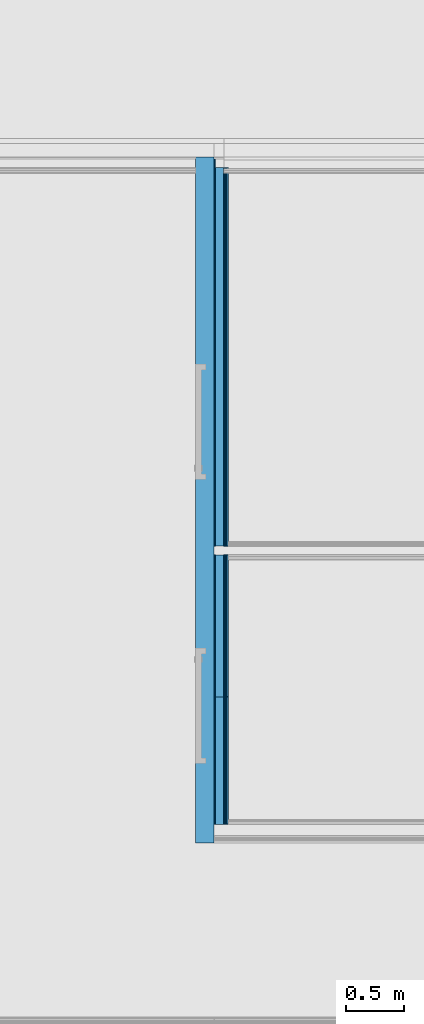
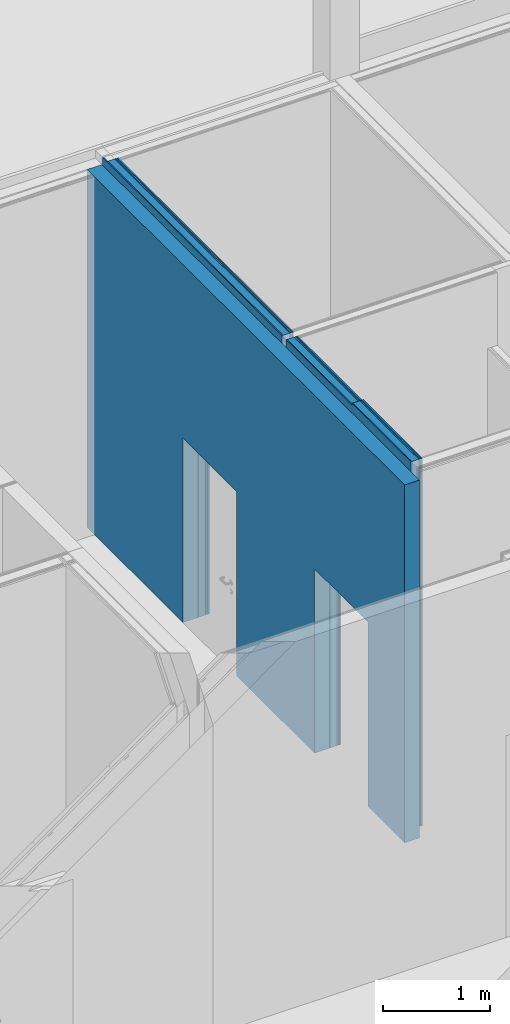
# One storey, part 227 of 260: 6 building element parts, 2 openings, 1 element without a shape of its own.
"""IFC2X3 building model written with IfcOpenShell, lengths in millimetres."""

from ifc_helpers import new_model, entity, si_unit, converted_unit, derived_unit, money_unit, direction, frame, origin_with_axes, place, context, subcontext, project, spatial, faceted_brep, material, type_object, element, aggregate, save


model = new_model("IFC2X3")

# Units and contexts
model_context = context("Model", 3, precision=0.01, world=origin_with_axes(), true_north=direction((0.0, 1.0)))
body_context = subcontext(model_context, "Body", "Model", "MODEL_VIEW")
ifc_project = project(units=[si_unit("LENGTHUNIT", "METRE", prefix="MILLI"), si_unit("AREAUNIT", "SQUARE_METRE"), si_unit("VOLUMEUNIT", "CUBIC_METRE"), converted_unit("PLANEANGLEUNIT", "DEGREE", entity("IfcPlaneAngleMeasure", 0.0174532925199), si_unit("PLANEANGLEUNIT", "RADIAN"), dimensions=[0, 0, 0, 0, 0, 0, 0]), money_unit("EUR"), converted_unit("TIMEUNIT", "Year", entity("IfcTimeMeasure", 31556926.0), si_unit("TIMEUNIT", "SECOND"), dimensions=[0, 0, 1, 0, 0, 0, 0]), si_unit("MASSUNIT", "GRAM", prefix="KILO"), si_unit("THERMODYNAMICTEMPERATUREUNIT", "DEGREE_CELSIUS"), si_unit("LUMINOUSINTENSITYUNIT", "LUMEN"), si_unit("ENERGYUNIT", "JOULE", prefix="MEGA"), derived_unit("THERMALCONDUCTANCEUNIT", [(si_unit("POWERUNIT", "WATT"), 1), (si_unit("LENGTHUNIT", "METRE"), -1), (si_unit("THERMODYNAMICTEMPERATUREUNIT", "KELVIN"), -1)]), derived_unit("SPECIFICHEATCAPACITYUNIT", [(si_unit("ENERGYUNIT", "JOULE"), 1), (si_unit("MASSUNIT", "GRAM", prefix="KILO"), -1), (si_unit("THERMODYNAMICTEMPERATUREUNIT", "KELVIN"), -1)]), derived_unit("MASSDENSITYUNIT", [(si_unit("MASSUNIT", "GRAM", prefix="KILO"), 1), (si_unit("VOLUMEUNIT", "CUBIC_METRE"), -1)])], contexts=[model_context])

# Site, building, storey
site_placement = place(None, origin_with_axes())
site = spatial("IfcSite", under=ifc_project, at=site_placement, Name="Kolde pst 67a", CompositionType="ELEMENT")
building_placement = place(site_placement, origin_with_axes())
building = spatial("IfcBuilding", under=site, at=building_placement, Name="Riigigümnaasium", CompositionType="ELEMENT")
storey_placement = place(building_placement, origin_with_axes())
storey = spatial("IfcBuildingStorey", under=building, at=storey_placement, Name="1. korrus", CompositionType="ELEMENT", Elevation=0.0)

# Wall, openings, building element parts
wall_type = type_object("IfcWallType", Name="SS-CLT-16/4_1xplaaditud 285", PredefinedType="NOTDEFINED")
wall_placement = place(storey_placement, frame((24040.0027342, 67089.9971514, 0.0), z_axis=(0.0, 0.0, 1.0), x_axis=(0.0, -1.0, 0.0)))
wall = element("IfcWall", 1, at=wall_placement, inside=storey, type_object=wall_type, Name="Sisesein")
opening_1_placement = place(wall_placement, frame((4745.99765613, 0.0, 0.0), z_axis=(0.0, 0.0, 1.0), x_axis=(1.0, 0.0, 0.0)))
element("IfcOpeningElement", 2, at=opening_1_placement, cuts=wall, Name="Siseuks", context=body_context, shape_type="Brep", body=[
    faceted_brep([(500.0, -570.0, 2100.0), (500.0, -570.0, 0.0), (500.0, 285.0, 0.0), (500.0, 285.0, 2100.0), (-500.0, -570.0, 2100.0), (-500.0, -570.0, 0.0), (-500.0, 285.0, 0.0), (-500.0, 285.0, 2100.0)], [[[0, 1, 2, 3]], [[0, 4, 5, 1]], [[1, 5, 6, 2]], [[3, 2, 6, 7]], [[4, 0, 3, 7]], [[5, 4, 7, 6]]]),
])
opening_2_placement = place(wall_placement, frame((2289.98388579, 0.0, 0.0), z_axis=(0.0, 0.0, 1.0), x_axis=(1.0, 0.0, 0.0)))
element("IfcOpeningElement", 3, at=opening_2_placement, cuts=wall, Name="Siseuks", context=body_context, shape_type="Brep", body=[
    faceted_brep([(-500.0, 285.0, 2100.0), (-500.0, 285.0, 0.0), (-500.0, -570.0, 0.0), (-500.0, -570.0, 2100.0), (500.0, 285.0, 2100.0), (500.0, 285.0, 0.0), (500.0, -570.0, 0.0), (500.0, -570.0, 2100.0)], [[[0, 1, 2, 3]], [[0, 4, 5, 1]], [[1, 5, 6, 2]], [[3, 2, 6, 7]], [[4, 0, 3, 7]], [[5, 4, 7, 6]]]),
])
ifc_material_1 = material(Name="_VIIMISTLUSKIHT - keraamiline plaat sein")
building_element_part_1_placement = place(wall_placement, origin_with_axes())
building_element_part_1 = element("IfcBuildingElementPart", 4, at=building_element_part_1_placement, material=ifc_material_1, Name="_VIIMISTLUSKIHT - keraamiline plaat sein", context=body_context, shape_type="Brep", body=[
    faceted_brep([(5245.99765613, 285.0, 0.0), (5245.99765613, 285.0, 2100.0), (4245.99765613, 285.0, 2100.0), (4245.99765613, 285.0, 0.0), (3440.48388579, 285.0, 0.0), (3440.48388579, 285.0, 4170.0), (4668.81419796, 285.0, 4170.0), (4668.81419796, 285.0, 4190.0), (5770.98388579, 285.0, 4190.0), (5770.98388579, 285.0, 0.0), (5245.99765613, 270.0, 0.0), (5245.99765613, 270.0, 2100.0), (4245.99765613, 270.0, 2100.0), (4245.99765613, 270.0, 0.0), (3440.48388579, 270.0, 0.0), (3440.48388579, 270.0, 4170.0), (4668.81419796, 270.0, 4170.0), (4668.81419796, 270.0, 4190.0), (5770.98388579, 270.0, 4190.0), (5770.98388579, 270.0, 0.0)], [[[0, 1, 2, 3, 4, 5, 6, 7, 8, 9]], [[1, 0, 10, 11]], [[2, 1, 11, 12]], [[3, 2, 12, 13]], [[3, 13, 14, 4]], [[5, 4, 14, 15]], [[5, 15, 16, 6]], [[7, 6, 16, 17]], [[17, 18, 8, 7]], [[18, 19, 9, 8]], [[10, 0, 9, 19]], [[11, 10, 19, 18, 17, 16, 15, 14, 13, 12]]]),
    faceted_brep([(2789.98388579, 285.0, 0.0), (2789.98388579, 285.0, 2100.0), (1789.98388579, 285.0, 2100.0), (1789.98388579, 285.0, 0.0), (90.0, 285.0, 0.0), (90.0, 285.0, 4170.0), (3365.48388579, 285.0, 4170.0), (3365.48388579, 285.0, 0.0), (2789.98388579, 270.0, 0.0), (2789.98388579, 270.0, 2100.0), (1789.98388579, 270.0, 2100.0), (1789.98388579, 270.0, 0.0), (90.0, 270.0, 0.0), (90.0, 270.0, 4170.0), (3365.48388579, 270.0, 4170.0), (3365.48388579, 270.0, 0.0)], [[[0, 1, 2, 3, 4, 5, 6, 7]], [[1, 0, 8, 9]], [[2, 1, 9, 10]], [[3, 2, 10, 11]], [[3, 11, 12, 4]], [[5, 4, 12, 13]], [[5, 13, 14, 6]], [[14, 15, 7, 6]], [[8, 0, 7, 15]], [[9, 8, 15, 14, 13, 12, 11, 10]]]),
])
ifc_material_2 = material(Name="_PLAATMATERJAL - kipsplaat veekindel")
building_element_part_2_placement = place(wall_placement, origin_with_axes())
building_element_part_2 = element("IfcBuildingElementPart", 5, at=building_element_part_2_placement, material=ifc_material_2, Name="_PLAATMATERJAL - kipsplaat veekindel", context=body_context, shape_type="Brep", body=[
    faceted_brep([(5245.99765613, 270.0, 0.0), (5245.99765613, 270.0, 2100.0), (4245.99765613, 270.0, 2100.0), (4245.99765613, 270.0, 0.0), (3440.48388579, 270.0, 0.0), (3440.48388579, 270.0, 4170.0), (4668.81419796, 270.0, 4170.0), (4668.81419796, 270.0, 4190.0), (5770.98388579, 270.0, 4190.0), (5770.98388579, 270.0, 0.0), (5245.99765613, 257.5, 0.0), (5245.99765613, 257.5, 2100.0), (4245.99765613, 257.5, 2100.0), (4245.99765613, 257.5, 0.0), (3440.48388579, 257.5, 0.0), (3440.48388579, 257.5, 4170.0), (4668.81419796, 257.5, 4170.0), (4668.81419796, 257.5, 4190.0), (5770.98388579, 257.5, 4190.0), (5770.98388579, 257.5, 0.0)], [[[0, 1, 2, 3, 4, 5, 6, 7, 8, 9]], [[1, 0, 10, 11]], [[2, 1, 11, 12]], [[3, 2, 12, 13]], [[3, 13, 14, 4]], [[5, 4, 14, 15]], [[5, 15, 16, 6]], [[7, 6, 16, 17]], [[17, 18, 8, 7]], [[18, 19, 9, 8]], [[10, 0, 9, 19]], [[11, 10, 19, 18, 17, 16, 15, 14, 13, 12]]]),
    faceted_brep([(2789.98388579, 270.0, 0.0), (2789.98388579, 270.0, 2100.0), (1789.98388579, 270.0, 2100.0), (1789.98388579, 270.0, 0.0), (90.0, 270.0, 0.0), (90.0, 270.0, 4170.0), (3365.48388579, 270.0, 4170.0), (3365.48388579, 270.0, 0.0), (2789.98388579, 257.5, 0.0), (2789.98388579, 257.5, 2100.0), (1789.98388579, 257.5, 2100.0), (1789.98388579, 257.5, 0.0), (90.0, 257.5, 0.0), (90.0, 257.5, 4170.0), (3365.48388579, 257.5, 4170.0), (3365.48388579, 257.5, 0.0)], [[[0, 1, 2, 3, 4, 5, 6, 7]], [[1, 0, 8, 9]], [[2, 1, 9, 10]], [[3, 2, 10, 11]], [[3, 11, 12, 4]], [[5, 4, 12, 13]], [[5, 13, 14, 6]], [[14, 15, 7, 6]], [[8, 0, 7, 15]], [[9, 8, 15, 14, 13, 12, 11, 10]]]),
])
building_element_part_3_placement = place(wall_placement, origin_with_axes())
building_element_part_3 = element("IfcBuildingElementPart", 6, at=building_element_part_3_placement, material=ifc_material_2, Name="_PLAATMATERJAL - kipsplaat veekindel", context=body_context, shape_type="Brep", body=[
    faceted_brep([(5245.99765613, 257.5, 0.0), (5245.99765613, 257.5, 2100.0), (4245.99765613, 257.5, 2100.0), (4245.99765613, 257.5, 0.0), (3440.48388579, 257.5, 0.0), (3440.48388579, 257.5, 4170.0), (4668.81419796, 257.5, 4170.0), (4668.81419796, 257.5, 4190.0), (5770.98388579, 257.5, 4190.0), (5770.98388579, 257.5, 0.0), (5245.99765613, 245.0, 0.0), (5245.99765613, 245.0, 2100.0), (4245.99765613, 245.0, 2100.0), (4245.99765613, 245.0, 0.0), (3440.48388579, 245.0, 0.0), (3440.48388579, 245.0, 4170.0), (4668.81419796, 245.0, 4170.0), (4668.81419796, 245.0, 4190.0), (5770.98388579, 245.0, 4190.0), (5770.98388579, 245.0, 0.0)], [[[0, 1, 2, 3, 4, 5, 6, 7, 8, 9]], [[1, 0, 10, 11]], [[2, 1, 11, 12]], [[3, 2, 12, 13]], [[3, 13, 14, 4]], [[5, 4, 14, 15]], [[5, 15, 16, 6]], [[7, 6, 16, 17]], [[17, 18, 8, 7]], [[18, 19, 9, 8]], [[10, 0, 9, 19]], [[11, 10, 19, 18, 17, 16, 15, 14, 13, 12]]]),
    faceted_brep([(2789.98388579, 257.5, 0.0), (2789.98388579, 257.5, 2100.0), (1789.98388579, 257.5, 2100.0), (1789.98388579, 257.5, 0.0), (90.0, 257.5, 0.0), (90.0, 257.5, 4170.0), (3365.48388579, 257.5, 4170.0), (3365.48388579, 257.5, 0.0), (2789.98388579, 245.0, 0.0), (2789.98388579, 245.0, 2100.0), (1789.98388579, 245.0, 2100.0), (1789.98388579, 245.0, 0.0), (90.0, 245.0, 0.0), (90.0, 245.0, 4170.0), (3365.48388579, 245.0, 4170.0), (3365.48388579, 245.0, 0.0)], [[[0, 1, 2, 3, 4, 5, 6, 7]], [[1, 0, 8, 9]], [[2, 1, 9, 10]], [[3, 2, 10, 11]], [[3, 11, 12, 4]], [[5, 4, 12, 13]], [[5, 13, 14, 6]], [[14, 15, 7, 6]], [[8, 0, 7, 15]], [[9, 8, 15, 14, 13, 12, 11, 10]]]),
])
ifc_material_3 = material(Name="_KARKASS - metallkarkass CW 75/50/06 ja UW 75/40/06, samm 600")
building_element_part_4_placement = place(wall_placement, origin_with_axes())
building_element_part_4 = element("IfcBuildingElementPart", 7, at=building_element_part_4_placement, material=ifc_material_3, Name="_KARKASS - metallkarkass CW 75/50/06 ja UW 75/40/06, samm 600", context=body_context, shape_type="Brep", body=[
    faceted_brep([(5245.99765613, 245.0, 0.0), (5245.99765613, 245.0, 2100.0), (4245.99765613, 245.0, 2100.0), (4245.99765613, 245.0, 0.0), (3440.48388579, 245.0, 0.0), (3440.48388579, 245.0, 4170.0), (4668.81419796, 245.0, 4170.0), (4668.81419796, 245.0, 4190.0), (5770.98388579, 245.0, 4190.0), (5770.98388579, 245.0, 0.0), (5245.99765613, 170.0, 0.0), (5245.99765613, 170.0, 2100.0), (4245.99765613, 170.0, 2100.0), (4245.99765613, 170.0, 0.0), (3440.48388579, 170.0, 0.0), (3440.48388579, 170.0, 4170.0), (4668.81419796, 170.0, 4170.0), (4668.81419796, 170.0, 4190.0), (5770.98388579, 170.0, 4190.0), (5770.98388579, 170.0, 0.0)], [[[0, 1, 2, 3, 4, 5, 6, 7, 8, 9]], [[1, 0, 10, 11]], [[2, 1, 11, 12]], [[3, 2, 12, 13]], [[3, 13, 14, 4]], [[5, 4, 14, 15]], [[5, 15, 16, 6]], [[7, 6, 16, 17]], [[17, 18, 8, 7]], [[18, 19, 9, 8]], [[10, 0, 9, 19]], [[11, 10, 19, 18, 17, 16, 15, 14, 13, 12]]]),
    faceted_brep([(2789.98388579, 245.0, 0.0), (2789.98388579, 245.0, 2100.0), (1789.98388579, 245.0, 2100.0), (1789.98388579, 245.0, 0.0), (90.0, 245.0, 0.0), (90.0, 245.0, 4170.0), (3365.48388579, 245.0, 4170.0), (3365.48388579, 245.0, 0.0), (2789.98388579, 170.0, 0.0), (2789.98388579, 170.0, 2100.0), (1789.98388579, 170.0, 2100.0), (1789.98388579, 170.0, 0.0), (90.0, 170.0, 0.0), (90.0, 170.0, 4170.0), (3365.48388579, 170.0, 4170.0), (3365.48388579, 170.0, 0.0)], [[[0, 1, 2, 3, 4, 5, 6, 7]], [[1, 0, 8, 9]], [[2, 1, 9, 10]], [[3, 2, 10, 11]], [[3, 11, 12, 4]], [[5, 4, 12, 13]], [[5, 13, 14, 6]], [[14, 15, 7, 6]], [[8, 0, 7, 15]], [[9, 8, 15, 14, 13, 12, 11, 10]]]),
])
ifc_material_4 = material(Name="_ÕHKVAHE")
building_element_part_5_placement = place(wall_placement, origin_with_axes())
building_element_part_5 = element("IfcBuildingElementPart", 8, at=building_element_part_5_placement, material=ifc_material_4, Name="_ÕHKVAHE", context=body_context, shape_type="Brep", body=[
    faceted_brep([(5245.99765613, 170.0, 0.0), (5245.99765613, 170.0, 2100.0), (4245.99765613, 170.0, 2100.0), (4245.99765613, 170.0, 0.0), (3440.48388579, 170.0, 0.0), (3440.48388579, 170.0, 4170.0), (4668.81419796, 170.0, 4170.0), (4668.81419796, 170.0, 4190.0), (5770.98388579, 170.0, 4190.0), (5770.98388579, 170.0, 0.0), (5245.99765613, 160.0, 0.0), (5245.99765613, 160.0, 2100.0), (4245.99765613, 160.0, 2100.0), (4245.99765613, 160.0, 0.0), (3440.48388579, 160.0, 0.0), (3440.48388579, 160.0, 4170.0), (4668.81419796, 160.0, 4170.0), (4668.81419796, 160.0, 4190.0), (5770.98388579, 160.0, 4190.0), (5770.98388579, 160.0, 0.0), (5770.98388579, 160.0, 4080.0)], [[[0, 1, 2, 3, 4, 5, 6, 7, 8, 9]], [[1, 0, 10, 11]], [[2, 1, 11, 12]], [[3, 2, 12, 13]], [[3, 13, 14, 4]], [[5, 4, 14, 15]], [[5, 15, 16, 6]], [[7, 6, 16, 17]], [[17, 18, 8, 7]], [[19, 9, 8, 18, 20]], [[10, 0, 9, 19]], [[11, 10, 19, 20, 18, 17, 16, 15, 14, 13, 12]]]),
    faceted_brep([(2789.98388579, 170.0, 0.0), (2789.98388579, 170.0, 2100.0), (1789.98388579, 170.0, 2100.0), (1789.98388579, 170.0, 0.0), (15.0, 170.0, 0.0), (15.0, 170.0, 4170.0), (3365.48388579, 170.0, 4170.0), (3365.48388579, 170.0, 0.0), (2789.98388579, 160.0, 0.0), (2789.98388579, 160.0, 2100.0), (1789.98388579, 160.0, 2100.0), (1789.98388579, 160.0, 0.0), (15.0, 160.0, 0.0), (15.0, 160.0, 4170.0), (3365.48388579, 160.0, 4170.0), (3365.48388579, 160.0, 0.0)], [[[0, 1, 2, 3, 4, 5, 6, 7]], [[1, 0, 8, 9]], [[2, 1, 9, 10]], [[3, 2, 10, 11]], [[3, 11, 12, 4]], [[5, 4, 12, 13]], [[5, 13, 14, 6]], [[14, 15, 7, 6]], [[8, 0, 7, 15]], [[9, 8, 15, 14, 13, 12, 11, 10]]]),
])
ifc_material_5 = material(Name="_KANDETARIND - CLT ristkihtliimpuit vastavalt EK osale, CLT paigaldusvuugid teibitakse ROTHOBLAAS teibiga")
building_element_part_6_placement = place(wall_placement, origin_with_axes())
building_element_part_6 = element("IfcBuildingElementPart", 9, at=building_element_part_6_placement, material=ifc_material_5, Name="_KANDETARIND - CLT ristkihtliimpuit vastavalt EK osale, CLT paigaldusvuugid teibitakse ROTHOBLAAS teibiga", context=body_context, shape_type="Brep", body=[
    faceted_brep([(2789.98388579, 160.0, 0.0), (2789.98388579, 160.0, 2100.0), (1789.98388579, 160.0, 2100.0), (1789.98388579, 160.0, 0.0), (0.0, 160.0, 0.0), (0.0, 160.0, 4080.0), (5930.98388221, 160.0, 4080.0), (5930.98388221, 160.0, 0.0), (5245.99765613, 160.0, 0.0), (5245.99765613, 160.0, 2100.0), (4245.99765613, 160.0, 2100.0), (4245.99765613, 160.0, 0.0), (2789.98388579, 0.0, 0.0), (2789.98388579, 0.0, 2100.0), (1789.98388579, 0.0, 2100.0), (1789.98388579, 0.0, 0.0), (0.0, 0.0, 0.0), (0.0, 0.0, 4080.0), (5930.98388221, 0.0, 4080.0), (5930.98388221, 0.0, 0.0), (5245.99765613, 0.0, 0.0), (5245.99765613, 0.0, 2100.0), (4245.99765613, 0.0, 2100.0), (4245.99765613, 0.0, 0.0)], [[[0, 1, 2, 3, 4, 5, 6, 7, 8, 9, 10, 11]], [[1, 0, 12, 13]], [[2, 1, 13, 14]], [[3, 2, 14, 15]], [[3, 15, 16, 4]], [[4, 16, 17, 5]], [[17, 18, 6, 5]], [[19, 7, 6, 18]], [[8, 7, 19, 20]], [[8, 20, 21, 9]], [[9, 21, 22, 10]], [[10, 22, 23, 11]], [[12, 0, 11, 23]], [[13, 12, 23, 22, 21, 20, 19, 18, 17, 16, 15, 14]]]),
])
aggregate(wall, [building_element_part_1, building_element_part_2, building_element_part_3, building_element_part_4, building_element_part_5, building_element_part_6])

save(model, "model.ifc")
